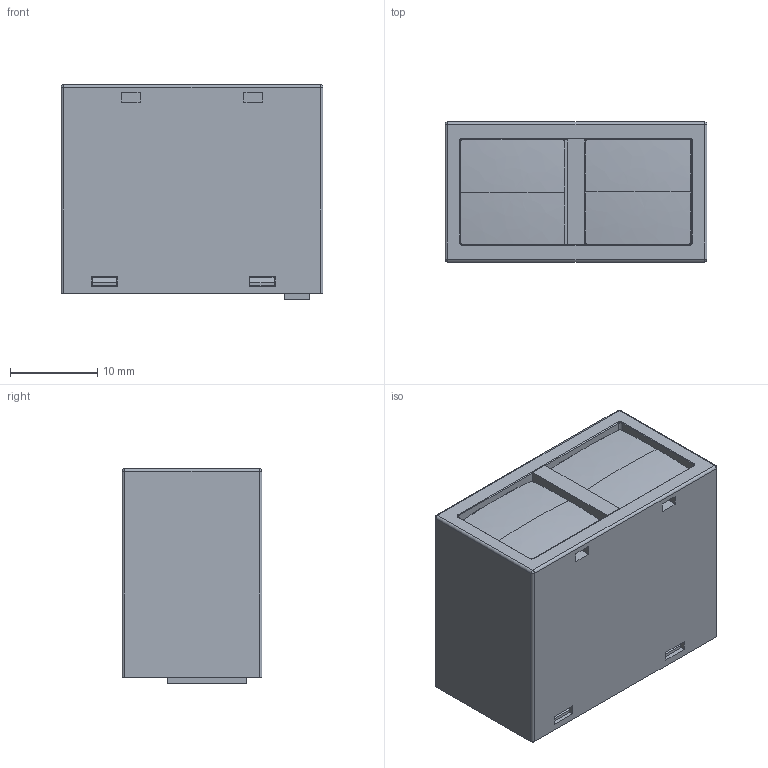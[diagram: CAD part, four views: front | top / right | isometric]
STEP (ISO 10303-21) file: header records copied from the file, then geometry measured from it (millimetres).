
FILE_DESCRIPTION (( 'STEP AP203' ), '1' );
FILE_NAME ('MVR2_装配体全.STEP', '2023-10-16T06:58:15', ( '' ), ( '' ), 'SwSTEP 2.0', 'SolidWorks 2017', '' );
FILE_SCHEMA (( 'CONFIG_CONTROL_DESIGN' ));
Length unit declared in the file: millimetre
Products named in the file (1): MVR2_装配体全
Bounding box: 30 x 16 x 24.55 mm (x, y, z)
Surface area: 5269 mm2 (no closed solid volume)
Topology: 0 solids, 12 shells, 222 faces, 1032 edges, 803 vertices
Faces by surface type: plane 106, cylinder 61, bspline 30, torus 14, sphere 8, cone 3
Entity records: 11139 total; most frequent: CARTESIAN_POINT 3149, ORIENTED_EDGE 1522, DIRECTION 1447, EDGE_CURVE 1021, VERTEX_POINT 803, VECTOR 743, LINE 743, AXIS2_PLACEMENT_3D 352
